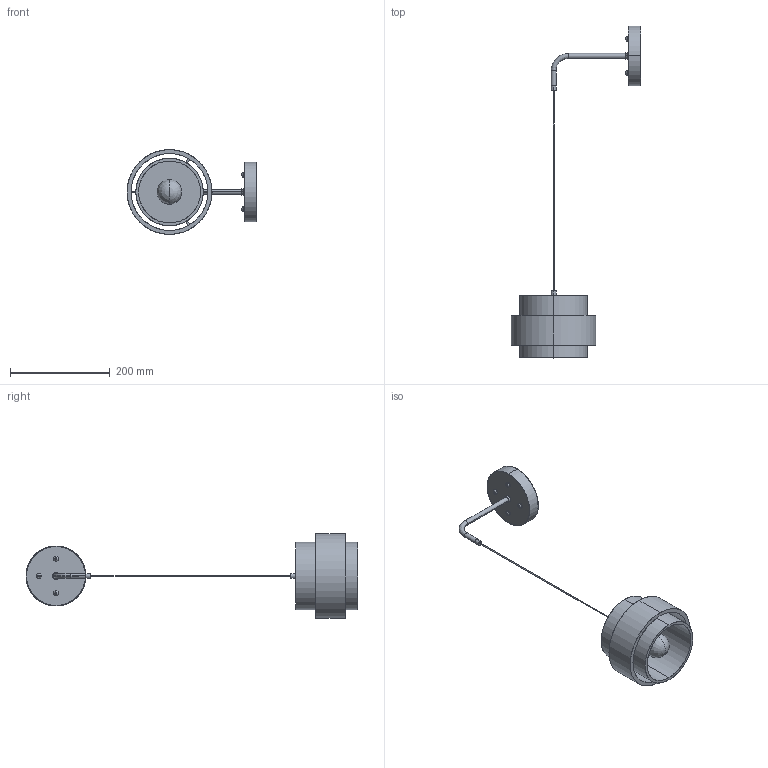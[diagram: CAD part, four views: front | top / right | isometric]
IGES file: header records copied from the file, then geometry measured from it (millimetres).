
Start section: SolidWorks IGES file using analytic representation for surfaces
Global section: file name: F:\燠隴矨\3D\2025-10\Stonova Travertine Wall Sconce.IGS,15; native system: HSolidWorks 2022; preprocessor: SolidWorks 2022; author: MyPC; date: 251011.211754; units: millimetre
Bounding box: 260 x 665 x 170 mm (x, y, z)
Surface area: 271034.2 mm2 (no closed solid volume)
Topology: 0 solids, 0 shells, 160 faces, 2286 edges, 2283 vertices
Faces by surface type: revolution 88, bspline 72
